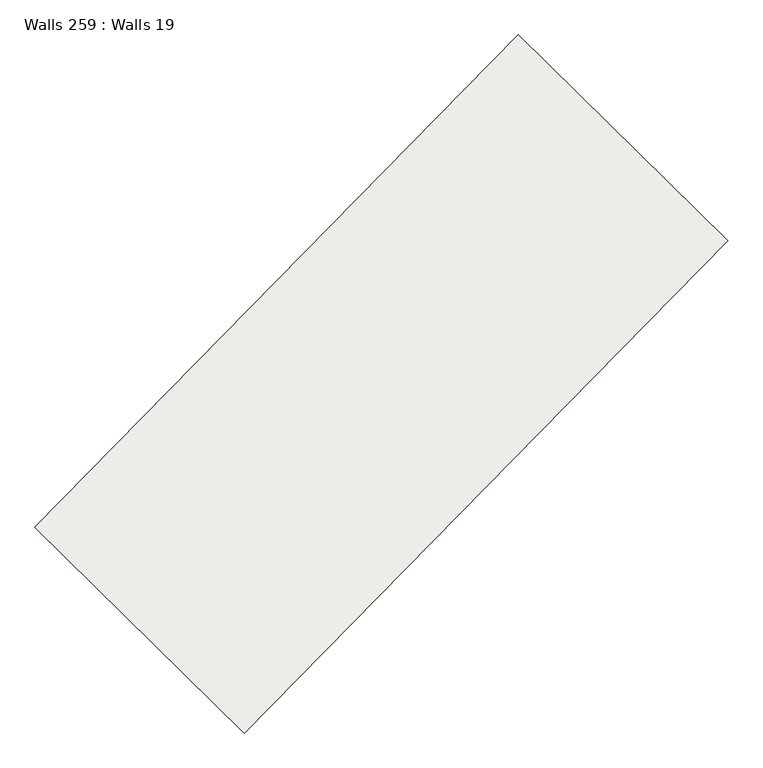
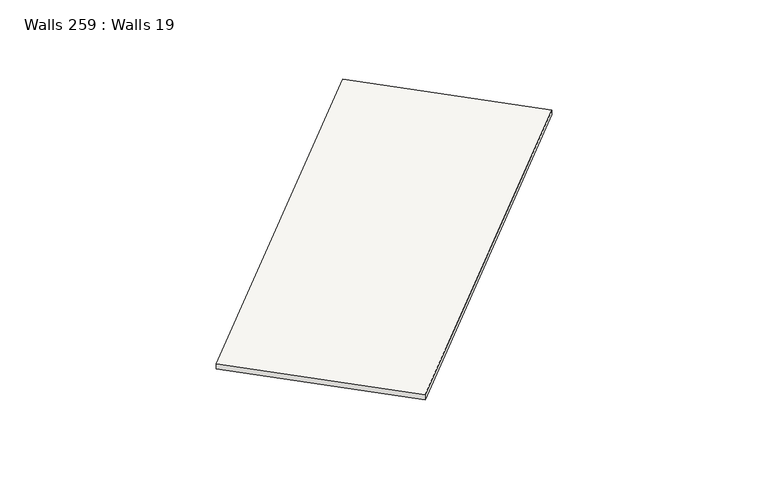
"""IFC4 building model written with IfcOpenShell, lengths in millimetres: slab geometry, Walls 259 : Walls 19."""

from ifc_helpers import new_model, si_unit, frame, origin, place, context, project, spatial, polyline, outline, extrude, source, transform, mapped, element, save


def walls_259_walls_19_93c24954(model_context):
    return source(origin(), model_context, "Body", "SweptSolid", [
        extrude(outline(polyline([(-50.0, 0.0), (50.0, 0.0), (-20.0, -8700.0001606), (-120.0, -8700.0001606), (-50.0, 0.0)])), frame((-225416.3643678, -389043.3863016, 634780.0), z_axis=(-0.7136987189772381, 0.7004528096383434, 0.0), x_axis=(0.0, 0.0, 1.0)), (0.0, 0.0, 1.0), 3700.0),
    ])


if __name__ == "__main__":
    model = new_model("IFC4")
    model_context = context("Model", 3, world=origin())
    ifc_project = project(units=[si_unit("LENGTHUNIT", "METRE", prefix="MILLI")], contexts=[model_context])
    site = spatial("IfcSite", under=ifc_project)
    building = spatial("IfcBuilding", under=site)
    placement = place(None, origin())
    walls_259_walls_19_shape = walls_259_walls_19_93c24954(model_context)
    element("IfcSlab", 1, ObjectType="Walls 259 : Walls 19", at=placement, inside=building, context=model_context, shape_type="MappedRepresentation", body=[
        mapped(walls_259_walls_19_shape, transform((0.0, 0.0, 0.0), x_axis=(1.0, 0.0, 0.0), y_axis=(0.0, 1.0, 0.0), z_axis=(0.0, 0.0, 1.0))),
    ])
    save(model, "model.ifc")
